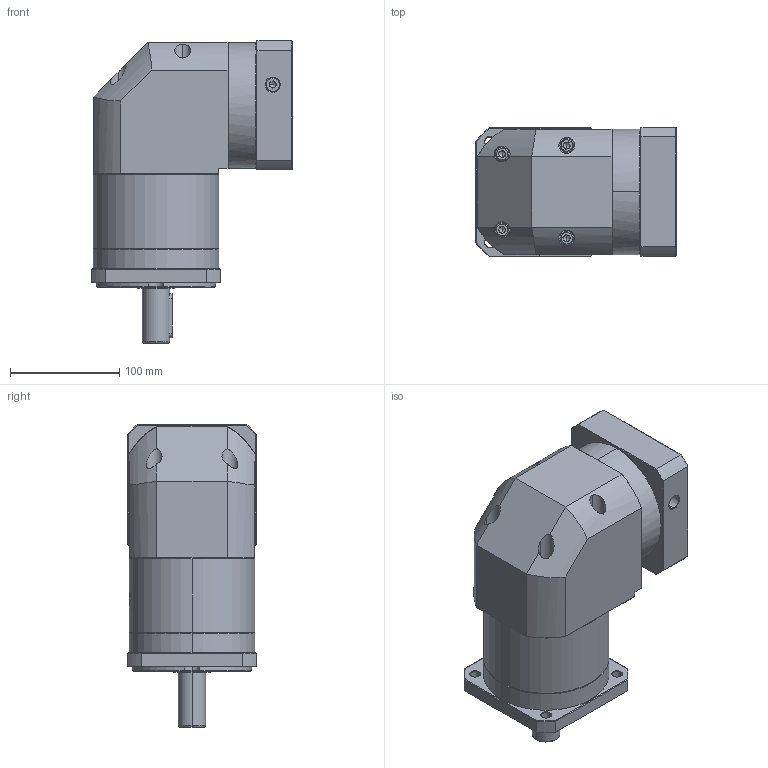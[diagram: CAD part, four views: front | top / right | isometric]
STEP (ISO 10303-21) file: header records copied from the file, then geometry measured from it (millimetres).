
FILE_DESCRIPTION (( 'STEP AP214' ), '1' );
FILE_NAME ('ZFR120A-D25-L2-P2-19-95-115-M6.step', '2023-08-27T08:02:45', ( '' ), ( '' ), 'SwSTEP 2.0', 'SolidWorks 2016', '' );
FILE_SCHEMA (( 'AUTOMOTIVE_DESIGN' ));
Length unit declared in the file: millimetre
Products named in the file (1): ZFR120A-D25-L2-P2-19-95-115-M6
Bounding box: 183.9 x 118 x 276.5 mm (x, y, z)
Volume: 3095342.3 mm3; surface area: 246191.5 mm2
Topology: 6 solids, 6 shells, 2253 faces, 5944 edges, 3795 vertices
Faces by surface type: plane 1060, bspline 428, cylinder 419, cone 338, torus 8
Entity records: 124493 total; most frequent: CARTESIAN_POINT 49481, ORIENTED_EDGE 11828, DIRECTION 8584, EDGE_CURVE 5914, VERTEX_POINT 3795, LINE 3140, VECTOR 3140, AXIS2_PLACEMENT_3D 2722
